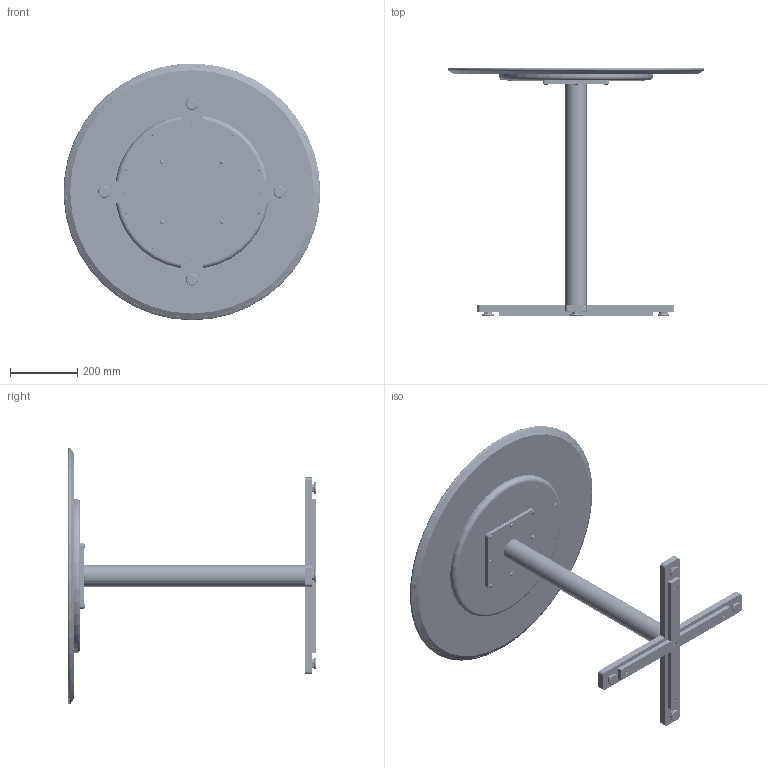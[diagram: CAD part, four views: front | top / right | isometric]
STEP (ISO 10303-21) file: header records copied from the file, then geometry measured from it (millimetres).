
FILE_DESCRIPTION(/* description */ ('CAPRI MEETING TABLE, 30'''' DIA X 29''''H '),/* implementation_level */ '2;1');
FILE_NAME(/* name */ '3138.stp',/* time_stamp */ '2025-07-03T13:22:02-04:00',/* author */ ('emendoza'),/* organization */ (''),/* preprocessor_version */ 'ST-DEVELOPER v20',/* originating_system */ 'Autodesk Inventor 2025',/* authorisation */ '');
FILE_SCHEMA (('AUTOMOTIVE_DESIGN { 1 0 10303 214 3 1 1 }'));
Products named in the file (39): 3138; 3138-010; 3138-011; 3138-011_1; 3138-012 ; 3138-013; HD01-036; MEFA300 ; 3138-019; 3138-014 ; 3138-014 _1; 3138-015; 3138-016; 3138-016_1; HD01-127; HD01-167; PA013B; 3138-020; 3138-020_1; 3138-017; 3138-018; 3136-030; 3136-031; FA151; 95170-OS; 3136-040; 3136-041; 3136-042; 3136-044; 3136-045; 3136-046; 3136-047; 3136-043; 3136-043_1; 3136-043_2; 3136-043_3; 3136-043_4; 3136-043_5; FA012
Assembly tree (82 placements, depth 6):
  3138
    3138-010
      3138-011
        3138-011_1
        3138-012 
        3138-013  x2
        HD01-036  x5
        MEFA300   x4
      3138-019
      3138-014 
        3138-014 _1
        3138-015
        3138-016
        3138-016_1
      HD01-127  x6
      HD01-167  x5
      PA013B  x4
      3138-020
        3138-020_1
        3138-017
        3138-018  x2
    3136-030
      3136-031
      FA151  x8
    95170-OS  x8
    3136-040
      3136-041
        3136-042
          3136-044
            3136-045
            3136-046
            3136-047
          3136-043
          3136-043_1
          3136-043_2
          3136-043_3
          3136-043_4
          3136-043_5
    FA012  x10
Bounding box: 761.53 x 736.6 x 761.48 mm (x, y, z)
Volume: 13790580.8 mm3; surface area: 3781645.4 mm2
Topology: 107 solids, 107 shells, 4551 faces, 11847 edges, 7840 vertices
Faces by surface type: cylinder 1963, plane 1537, cone 837, bspline 136, torus 70, sphere 8
Full cylindrical faces by diameter (mm): 2.812 x90, 3.489 x10, 4.166 x90, 4.7 x423, 4.762 x10, 5.159 x6, 6.104 x20, 6.35 x432, 6.747 x1, 7.144 x22, 7.747 x13, 7.925 x4, 7.938 x41, 8.433 x10, 9.525 x15, 11.112 x12, 12.497 x8, 13.494 x1, 19.05 x5, 19.844 x8, 22.225 x2, 25.4 x3, 57.404 x1, 63.5 x1, 76.2 x1, 457.2 x1, 736.6 x1, 746.125 x3
Entity records: 53633 total; most frequent: CARTESIAN_POINT 25846, DIRECTION 5459, ORIENTED_EDGE 5376, EDGE_CURVE 2688, AXIS2_PLACEMENT_3D 2029, VERTEX_POINT 1779, LINE 1401, VECTOR 1401
